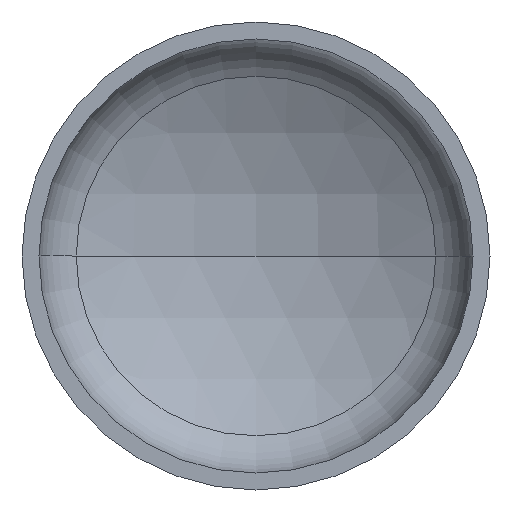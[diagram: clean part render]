
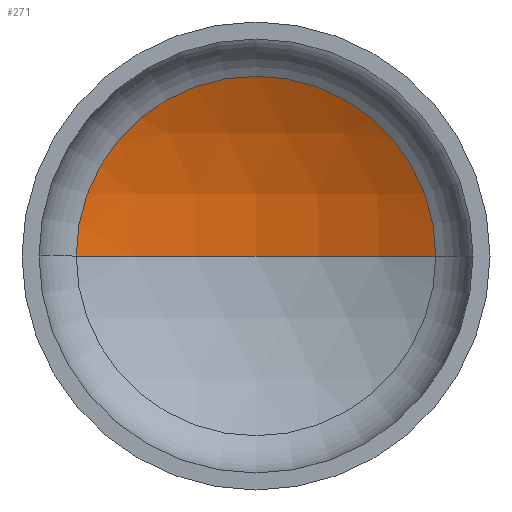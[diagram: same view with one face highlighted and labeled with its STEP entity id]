
A CAD part, front view. The second image highlights one B-rep face of the part: STEP entity #271.
In plain terms, the highlighted spherical face has radius 2560 mm.
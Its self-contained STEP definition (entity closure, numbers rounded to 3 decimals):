
#25 = CARTESIAN_POINT ( 'NONE',  ( 0., 819.273, 0. ) ) ;
#39 = VERTEX_POINT ( 'NONE', #154 ) ;
#48 = ORIENTED_EDGE ( 'NONE', *, *, #242, .T. ) ;
#49 = VERTEX_POINT ( 'NONE', #397 ) ;
#58 = EDGE_LOOP ( 'NONE', ( #88, #84, #48 ) ) ;
#81 = AXIS2_PLACEMENT_3D ( 'NONE', #339, #340, #370 ) ;
#84 = ORIENTED_EDGE ( 'NONE', *, *, #244, .T. ) ;
#88 = ORIENTED_EDGE ( 'NONE', *, *, #246, .F. ) ;
#106 = VERTEX_POINT ( 'NONE', #25 ) ;
#128 = CIRCLE ( 'NONE', #141, 2560. ) ;
#138 = AXIS2_PLACEMENT_3D ( 'NONE', #243, #238, #395 ) ;
#141 = AXIS2_PLACEMENT_3D ( 'NONE', #258, #248, #247 ) ;
#150 = AXIS2_PLACEMENT_3D ( 'NONE', #355, #256, #252 ) ;
#154 = CARTESIAN_POINT ( 'NONE',  ( -1229.295, 504.81, 0. ) ) ;
#194 = FACE_OUTER_BOUND ( 'NONE', #58, .T. ) ;
#201 = CIRCLE ( 'NONE', #138, 2560. ) ;
#238 = DIRECTION ( 'NONE',  ( 0., 0., 1. ) ) ;
#242 = EDGE_CURVE ( 'NONE', #49, #39, #346, .T. ) ;
#243 = CARTESIAN_POINT ( 'NONE',  ( 0., -1740.727, 0. ) ) ;
#244 = EDGE_CURVE ( 'NONE', #106, #49, #128, .T. ) ;
#246 = EDGE_CURVE ( 'NONE', #106, #39, #201, .T. ) ;
#247 = DIRECTION ( 'NONE',  ( -1., 0., 0. ) ) ;
#248 = DIRECTION ( 'NONE',  ( 0., 0., -1. ) ) ;
#252 = DIRECTION ( 'NONE',  ( 1., 0., 0. ) ) ;
#256 = DIRECTION ( 'NONE',  ( 0., -1., 0. ) ) ;
#258 = CARTESIAN_POINT ( 'NONE',  ( 0., -1740.727, 0. ) ) ;
#271 = ADVANCED_FACE ( 'NONE', ( #194 ), #331, .F. ) ;
#331 = SPHERICAL_SURFACE ( 'NONE', #81, 2560. ) ;
#339 = CARTESIAN_POINT ( 'NONE',  ( 0., -1740.727, 0. ) ) ;
#340 = DIRECTION ( 'NONE',  ( 0., 0., -1. ) ) ;
#346 = CIRCLE ( 'NONE', #150, 1229.295 ) ;
#355 = CARTESIAN_POINT ( 'NONE',  ( 0., 504.81, 0. ) ) ;
#370 = DIRECTION ( 'NONE',  ( -1., 0., 0. ) ) ;
#395 = DIRECTION ( 'NONE',  ( 1., 0., 0. ) ) ;
#397 = CARTESIAN_POINT ( 'NONE',  ( 1229.295, 504.81, 0. ) ) ;
